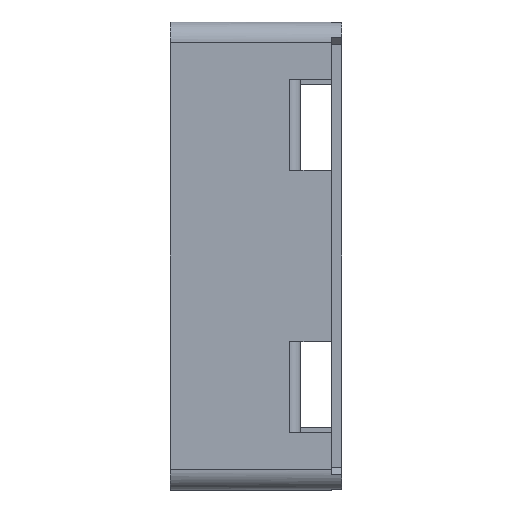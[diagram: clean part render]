
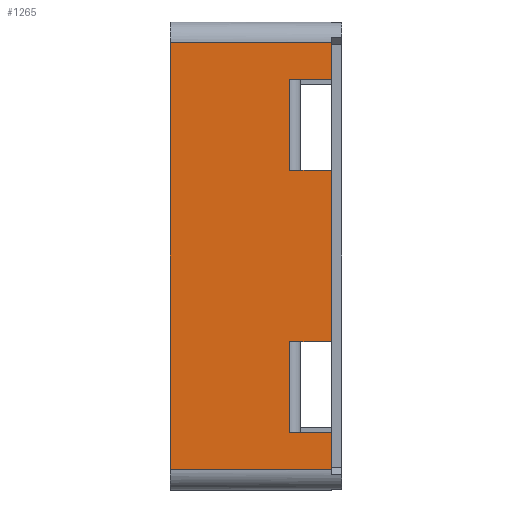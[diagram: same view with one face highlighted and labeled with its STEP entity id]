
A CAD part, left-side view. The second image highlights one B-rep face of the part: STEP entity #1265.
In plain terms, the highlighted planar face has unit normal (-1, 0, 0).
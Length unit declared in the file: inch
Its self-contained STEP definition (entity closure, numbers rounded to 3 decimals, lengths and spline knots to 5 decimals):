
#3 = CARTESIAN_POINT ( 'NONE',  ( -24., -3., 8.25 ) ) ;
#28 = DIRECTION ( 'NONE',  ( 0., 1., 0. ) ) ;
#123 = ORIENTED_EDGE ( 'NONE', *, *, #3598, .F. ) ;
#144 = VERTEX_POINT ( 'NONE', #1139 ) ;
#217 = ORIENTED_EDGE ( 'NONE', *, *, #3321, .T. ) ;
#270 = LINE ( 'NONE', #3583, #2391 ) ;
#275 = ORIENTED_EDGE ( 'NONE', *, *, #2867, .F. ) ;
#349 = ORIENTED_EDGE ( 'NONE', *, *, #1957, .T. ) ;
#515 = EDGE_CURVE ( 'NONE', #1153, #144, #270, .T. ) ;
#521 = VECTOR ( 'NONE', #1792, 39.37008 ) ;
#547 = VECTOR ( 'NONE', #2790, 39.37008 ) ;
#564 = VERTEX_POINT ( 'NONE', #1327 ) ;
#576 = ORIENTED_EDGE ( 'NONE', *, *, #754, .T. ) ;
#585 = VECTOR ( 'NONE', #3119, 39.37008 ) ;
#661 = CARTESIAN_POINT ( 'NONE',  ( -24., -3., 0. ) ) ;
#723 = DIRECTION ( 'NONE',  ( 0., 0., 1. ) ) ;
#754 = EDGE_CURVE ( 'NONE', #3106, #3450, #1255, .T. ) ;
#768 = LINE ( 'NONE', #2213, #1425 ) ;
#785 = EDGE_CURVE ( 'NONE', #1395, #2600, #2741, .T. ) ;
#795 = ORIENTED_EDGE ( 'NONE', *, *, #2773, .T. ) ;
#905 = DIRECTION ( 'NONE',  ( 0., 1., 0. ) ) ;
#945 = CARTESIAN_POINT ( 'NONE',  ( -24., 1., -8.25 ) ) ;
#973 = DIRECTION ( 'NONE',  ( 0., 0., 1. ) ) ;
#983 = FACE_OUTER_BOUND ( 'NONE', #1047, .T. ) ;
#989 = VERTEX_POINT ( 'NONE', #2422 ) ;
#1010 = VECTOR ( 'NONE', #1668, 39.37008 ) ;
#1047 = EDGE_LOOP ( 'NONE', ( #1698, #123, #576, #795, #349, #3034, #1381, #217, #2750, #275, #2136, #2182 ) ) ;
#1064 = VECTOR ( 'NONE', #1510, 39.37008 ) ;
#1136 = EDGE_CURVE ( 'NONE', #564, #1483, #768, .T. ) ;
#1139 = CARTESIAN_POINT ( 'NONE',  ( -24., -3., 17. ) ) ;
#1142 = EDGE_CURVE ( 'NONE', #144, #1706, #3573, .T. ) ;
#1153 = VERTEX_POINT ( 'NONE', #1962 ) ;
#1172 = VECTOR ( 'NONE', #1803, 39.37008 ) ;
#1185 = DIRECTION ( 'NONE',  ( 0., 0., 1. ) ) ;
#1244 = VECTOR ( 'NONE', #905, 39.37008 ) ;
#1255 = LINE ( 'NONE', #661, #521 ) ;
#1265 = ADVANCED_FACE ( 'NONE', ( #983 ), #1457, .F. ) ;
#1316 = LINE ( 'NONE', #2328, #585 ) ;
#1327 = CARTESIAN_POINT ( 'NONE',  ( -24., 12.5, 20.5 ) ) ;
#1381 = ORIENTED_EDGE ( 'NONE', *, *, #515, .F. ) ;
#1395 = VERTEX_POINT ( 'NONE', #945 ) ;
#1403 = CARTESIAN_POINT ( 'NONE',  ( -24., 12., 20.5 ) ) ;
#1418 = VECTOR ( 'NONE', #723, 39.37008 ) ;
#1425 = VECTOR ( 'NONE', #2473, 39.37008 ) ;
#1427 = CARTESIAN_POINT ( 'NONE',  ( -24., -3., 8.25 ) ) ;
#1457 = PLANE ( 'NONE',  #1800 ) ;
#1483 = VERTEX_POINT ( 'NONE', #3229 ) ;
#1510 = DIRECTION ( 'NONE',  ( 0., 1., 0. ) ) ;
#1580 = CARTESIAN_POINT ( 'NONE',  ( -24., 1., -17. ) ) ;
#1664 = VERTEX_POINT ( 'NONE', #3599 ) ;
#1668 = DIRECTION ( 'NONE',  ( 0., 1., 0. ) ) ;
#1675 = LINE ( 'NONE', #3, #1010 ) ;
#1698 = ORIENTED_EDGE ( 'NONE', *, *, #785, .F. ) ;
#1706 = VERTEX_POINT ( 'NONE', #2207 ) ;
#1742 = CARTESIAN_POINT ( 'NONE',  ( -24., 12., 0. ) ) ;
#1792 = DIRECTION ( 'NONE',  ( 0., 0., 1. ) ) ;
#1800 = AXIS2_PLACEMENT_3D ( 'NONE', #1742, #3136, #1185 ) ;
#1803 = DIRECTION ( 'NONE',  ( 0., 0., -1. ) ) ;
#1819 = CARTESIAN_POINT ( 'NONE',  ( -24., -3., -22.5 ) ) ;
#1957 = EDGE_CURVE ( 'NONE', #2565, #1706, #2167, .T. ) ;
#1962 = CARTESIAN_POINT ( 'NONE',  ( -24., -3., 20.5 ) ) ;
#2074 = CARTESIAN_POINT ( 'NONE',  ( -24., -3., -8.25 ) ) ;
#2106 = CARTESIAN_POINT ( 'NONE',  ( -24., -3., -8.25 ) ) ;
#2136 = ORIENTED_EDGE ( 'NONE', *, *, #2269, .T. ) ;
#2167 = LINE ( 'NONE', #3514, #1418 ) ;
#2177 = CARTESIAN_POINT ( 'NONE',  ( -24., 1., 8.25 ) ) ;
#2182 = ORIENTED_EDGE ( 'NONE', *, *, #2423, .T. ) ;
#2207 = CARTESIAN_POINT ( 'NONE',  ( -24., 1., 17. ) ) ;
#2213 = CARTESIAN_POINT ( 'NONE',  ( -24., 12.5, 0. ) ) ;
#2269 = EDGE_CURVE ( 'NONE', #989, #1664, #2772, .T. ) ;
#2328 = CARTESIAN_POINT ( 'NONE',  ( -24., 12., -20.5 ) ) ;
#2391 = VECTOR ( 'NONE', #2464, 39.37008 ) ;
#2422 = CARTESIAN_POINT ( 'NONE',  ( -24., -3., -20.5 ) ) ;
#2423 = EDGE_CURVE ( 'NONE', #1664, #2600, #2722, .T. ) ;
#2464 = DIRECTION ( 'NONE',  ( 0., 0., -1. ) ) ;
#2473 = DIRECTION ( 'NONE',  ( 0., 0., -1. ) ) ;
#2486 = CARTESIAN_POINT ( 'NONE',  ( -24., -3., 17. ) ) ;
#2565 = VERTEX_POINT ( 'NONE', #2177 ) ;
#2592 = VECTOR ( 'NONE', #973, 39.37008 ) ;
#2600 = VERTEX_POINT ( 'NONE', #1580 ) ;
#2630 = CARTESIAN_POINT ( 'NONE',  ( -24., 1., -17. ) ) ;
#2722 = LINE ( 'NONE', #3139, #1244 ) ;
#2741 = LINE ( 'NONE', #2630, #1172 ) ;
#2750 = ORIENTED_EDGE ( 'NONE', *, *, #1136, .T. ) ;
#2772 = LINE ( 'NONE', #1819, #2592 ) ;
#2773 = EDGE_CURVE ( 'NONE', #3450, #2565, #1675, .T. ) ;
#2790 = DIRECTION ( 'NONE',  ( 0., 1., 0. ) ) ;
#2822 = VECTOR ( 'NONE', #28, 39.37008 ) ;
#2853 = LINE ( 'NONE', #1403, #547 ) ;
#2867 = EDGE_CURVE ( 'NONE', #989, #1483, #1316, .T. ) ;
#3034 = ORIENTED_EDGE ( 'NONE', *, *, #1142, .F. ) ;
#3106 = VERTEX_POINT ( 'NONE', #2106 ) ;
#3119 = DIRECTION ( 'NONE',  ( 0., 1., 0. ) ) ;
#3136 = DIRECTION ( 'NONE',  ( 1., 0., 0. ) ) ;
#3139 = CARTESIAN_POINT ( 'NONE',  ( -24., -3., -17. ) ) ;
#3229 = CARTESIAN_POINT ( 'NONE',  ( -24., 12.5, -20.5 ) ) ;
#3292 = LINE ( 'NONE', #2074, #1064 ) ;
#3321 = EDGE_CURVE ( 'NONE', #1153, #564, #2853, .T. ) ;
#3450 = VERTEX_POINT ( 'NONE', #1427 ) ;
#3514 = CARTESIAN_POINT ( 'NONE',  ( -24., 1., 17. ) ) ;
#3573 = LINE ( 'NONE', #2486, #2822 ) ;
#3583 = CARTESIAN_POINT ( 'NONE',  ( -24., -3., 22.5 ) ) ;
#3598 = EDGE_CURVE ( 'NONE', #3106, #1395, #3292, .T. ) ;
#3599 = CARTESIAN_POINT ( 'NONE',  ( -24., -3., -17. ) ) ;
